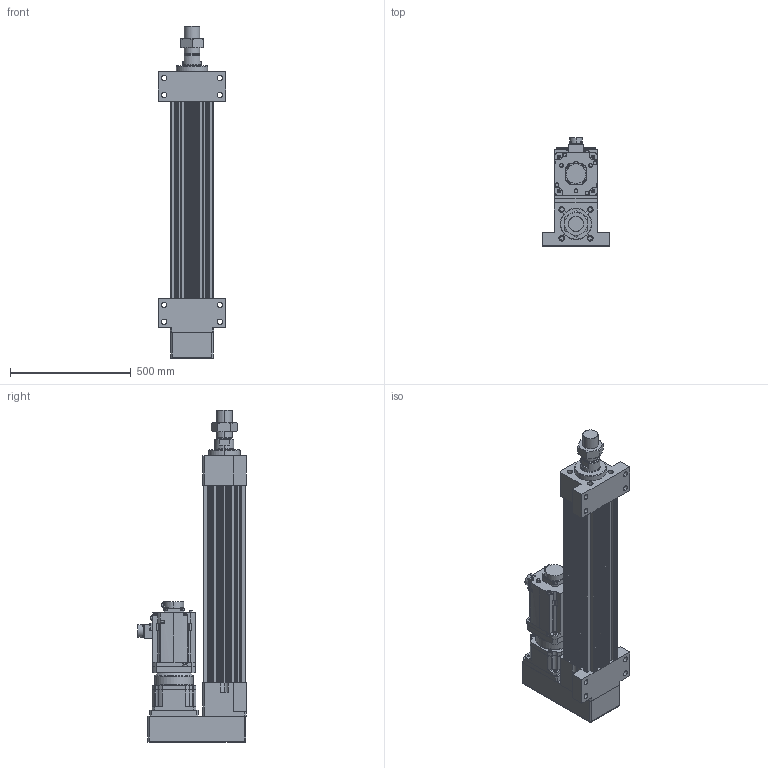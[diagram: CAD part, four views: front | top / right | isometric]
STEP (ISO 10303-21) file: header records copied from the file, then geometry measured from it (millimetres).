
FILE_DESCRIPTION (( 'STEP AP203' ), '1' );
FILE_NAME ('HES180HS-P500-W070G00-M-FFB.STEP', '2026-06-10T06:48:44', ( 'tms' ), ( '' ), 'SwSTEP 2.0', 'SolidWorks 2013', '' );
FILE_SCHEMA (( 'CONFIG_CONTROL_DESIGN' ));
Length unit declared in the file: millimetre
Products named in the file (9): HES180-M-ROD-500; AB1802; M64X2.0P; AB1801; AB1803; HES180HS-P500-W070G00-M-FFB; HES180-FFB-500; HES180-P-G180; HG-SR702B
Assembly tree (8 placements, depth 2):
  HES180HS-P500-W070G00-M-FFB
    HES180-FFB-500
    HES180-M-ROD-500
    M64X2.0P
    HES180-P-G180
    AB1801
    AB1802
    AB1803
    HG-SR702B
Bounding box: 280 x 447.1 x 1372 mm (x, y, z)
Volume: 32078718.4 mm3; surface area: 2862842.4 mm2
Topology: 5 solids, 20 shells, 1500 faces, 3895 edges, 2540 vertices
Faces by surface type: cylinder 692, plane 607, cone 134, bspline 63, torus 4
Entity records: 54836 total; most frequent: CARTESIAN_POINT 16372, DIRECTION 8097, ORIENTED_EDGE 7714, EDGE_CURVE 3881, AXIS2_PLACEMENT_3D 3045, VERTEX_POINT 2540, VECTOR 2007, LINE 2007
